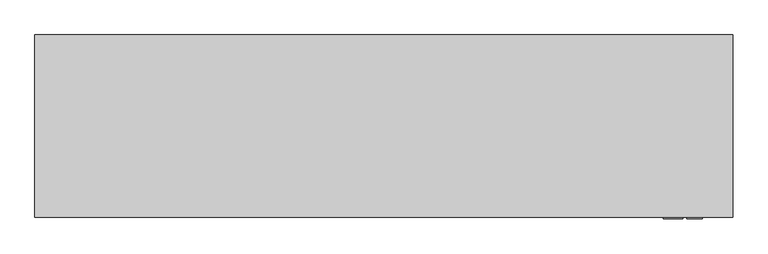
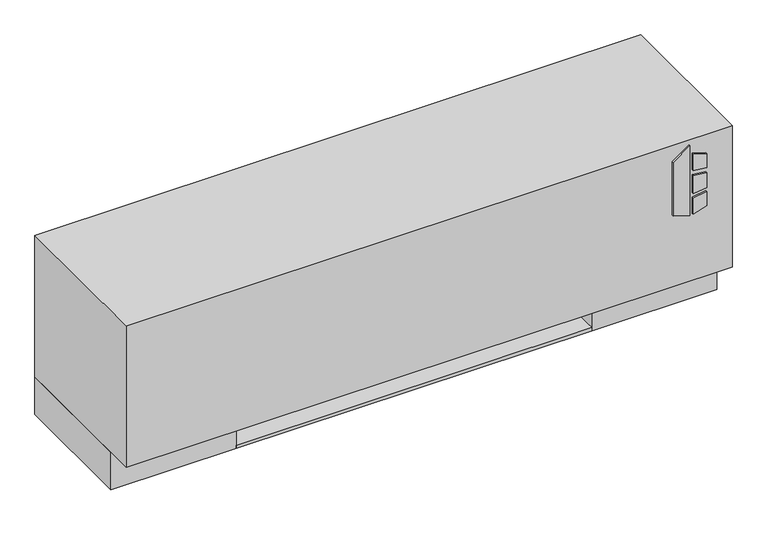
"""IFC4 building model written with IfcOpenShell, lengths in millimetres: proxy geometry, Exposed_Low_Boy_Fan_Coil_Unit Fan_-_LXA_-_IEC_-_2-Pipe_LH_2022 : Size 03 - 277v/60Hz/1Ph - 2/1 Coil."""

from ifc_helpers import new_model, si_unit, point, frame, frame_2d, origin, origin_with_axes, place, context, project, spatial, polyline, circle_curve, trimmed, segment, composite_curve, outline, extrude, faceted_brep, source, transform, mapped, element, save


def mechanical_equipment_014a290c(model_context):
    return source(origin(), model_context, "Body", "SolidModel", [
        faceted_brep([(393.7, -266.7, 114.3), (215.9, -266.7, 114.3), (215.9, -520.7, 114.3), (393.7, -520.7, 114.3), (219.075, -269.875, 114.3), (390.525, -269.875, 114.3), (390.525, -517.525, 114.3), (219.075, -517.525, 114.3), (393.7, -266.7, 88.9), (393.7, -520.7, 88.9), (215.9, -520.7, 88.9), (215.9, -266.7, 88.9), (390.525, -269.875, 92.0747888), (219.075, -269.875, 92.0747888), (219.075, -517.525, 92.0747888), (390.525, -517.525, 92.0747888)], [[[0, 1, 2, 3], [4, 5, 6, 7]], [[8, 9, 10, 11]], [[1, 0, 8, 11]], [[2, 1, 11, 10]], [[3, 2, 10, 9]], [[0, 3, 9, 8]], [[12, 13, 14, 15]], [[13, 12, 5, 4]], [[14, 13, 4, 7]], [[15, 14, 7, 6]], [[12, 15, 6, 5]]]),
        extrude(outline(composite_curve([segment(trimmed(circle_curve(frame_2d((304.8, -393.7)), 9.525), [point((295.275, -393.7))], [point((314.325, -393.7))], False, "CARTESIAN"), True, "CONTINUOUS"), segment(trimmed(circle_curve(frame_2d((304.8, -393.7)), 9.525), [point((314.325, -393.7))], [point((295.275, -393.7))], False, "CARTESIAN"), True, "CONTINUOUS")], self_intersect=False)), frame((0.0, 0.0, 63.5), z_axis=(0.0, 0.0, 1.0), x_axis=(1.0, 0.0, 0.0)), (0.0, 0.0, 1.0), 25.4),
        extrude(outline(polyline([(222.6730703, 1204.9868862), (212.725, 1237.1602728), (354.8959244, 1237.1602728), (331.8739183, 1204.9868862), (222.6730703, 1204.9868862)])), frame((0.0, -546.1, 0.0), z_axis=(0.0, 1.0, 0.0), x_axis=(0.0, 0.0, 1.0)), (0.0, 0.0, 1.0), 3.175),
        extrude(outline(polyline([(301.6723557, 1243.9186058), (298.4699632, 1270.0), (327.6988042, 1270.0), (335.7632193, 1243.9186058), (301.6723557, 1243.9186058)])), frame((0.0, -546.1, 0.0), z_axis=(0.0, 1.0, 0.0), x_axis=(0.0, 0.0, 1.0)), (0.0, 0.0, 1.0), 3.175),
        extrude(outline(polyline([(249.8088288, 1270.0), (246.1433279, 1243.9186058), (212.725, 1243.9186058), (221.3592372, 1270.0), (249.8088288, 1270.0)])), frame((0.0, -546.1, 0.0), z_axis=(0.0, 1.0, 0.0), x_axis=(0.0, 0.0, 1.0)), (0.0, 0.0, 1.0), 3.175),
        extrude(outline(polyline([(289.1239903, 1270.0), (291.4058166, 1243.9186058), (255.4682681, 1243.9186058), (258.2095331, 1270.0), (289.1239903, 1270.0)])), frame((0.0, -546.1, 0.0), z_axis=(0.0, 1.0, 0.0), x_axis=(0.0, 0.0, 1.0)), (0.0, 0.0, 1.0), 3.175),
        faceted_brep([(1320.8, -238.125, 365.125), (152.4, -238.125, 365.125), (152.4, -542.925, 365.125), (1320.8, -542.925, 365.125), (1320.8, -238.125, 76.2), (1320.8, -542.925, 76.2), (152.4, -542.925, 76.2), (152.4, -238.125, 76.2), (165.1, -238.125, 76.2), (165.1, -517.525, 76.2), (393.7, -517.525, 76.2), (393.7, -238.125, 76.2), (1079.5, -238.125, 76.2), (1079.5, -517.525, 76.2), (1308.1, -517.525, 76.2), (1308.1, -238.125, 76.2), (1308.1, -238.125, 339.725), (1079.5, -238.125, 339.725), (393.7, -238.125, 339.725), (165.1, -238.125, 339.725), (1308.1, -517.525, 339.725), (1079.5, -517.525, 339.725), (393.7, -517.525, 339.725), (165.1, -517.525, 339.725)], [[[0, 1, 2, 3]], [[4, 5, 6, 7, 8, 9, 10, 11, 12, 13, 14, 15]], [[1, 0, 4, 15, 16, 17, 12, 11, 18, 19, 8, 7]], [[2, 1, 7, 6]], [[3, 2, 6, 5]], [[0, 3, 5, 4]], [[16, 20, 21, 17]], [[18, 22, 23, 19]], [[17, 21, 13, 12]], [[21, 20, 14, 13]], [[20, 16, 15, 14]], [[19, 23, 9, 8]], [[23, 22, 10, 9]], [[22, 18, 11, 10]]]),
        extrude(outline(polyline([(1079.5, -492.125), (393.7, -492.125), (393.7, -244.475), (1079.5, -244.475), (1079.5, -492.125)])), origin_with_axes(), (0.0, 0.0, 1.0), 6.35),
        extrude(outline(polyline([(1079.5, -238.125), (1079.5, -244.475), (393.7, -244.475), (393.7, -238.125), (1079.5, -238.125)])), origin_with_axes(), (0.0, 0.0, 1.0), 76.2),
        extrude(outline(polyline([(1320.8, -238.125), (1320.8, -492.125), (1079.5, -492.125), (1079.5, -238.125), (1320.8, -238.125)]), holes=[polyline([(1092.2, -485.775), (1308.1, -485.775), (1308.1, -244.475), (1092.2, -244.475), (1092.2, -485.775)])]), origin_with_axes(), (0.0, 0.0, 1.0), 76.2),
        extrude(outline(polyline([(393.7, -238.125), (393.7, -492.125), (152.4, -492.125), (152.4, -238.125), (393.7, -238.125)]), holes=[polyline([(381.0, -244.475), (165.1, -244.475), (165.1, -485.775), (381.0, -485.775), (381.0, -244.475)])]), origin_with_axes(), (0.0, 0.0, 1.0), 76.2),
        extrude(outline(composite_curve([segment(trimmed(circle_curve(frame_2d((-485.775, 227.0125)), 7.9375), [point((-485.775, 219.075))], [point((-485.775, 234.95))], False, "CARTESIAN"), True, "CONTINUOUS"), segment(trimmed(circle_curve(frame_2d((-485.775, 227.0125)), 7.9375), [point((-485.775, 234.95))], [point((-485.775, 219.075))], False, "CARTESIAN"), True, "CONTINUOUS")], self_intersect=False)), frame((342.9, 0.0, 0.0), z_axis=(1.0, 0.0, 0.0), x_axis=(0.0, 1.0, 0.0)), (0.0, 0.0, 1.0), 50.8),
        extrude(outline(composite_curve([segment(trimmed(circle_curve(frame_2d((-269.875, 273.05)), 7.9375), [point((-269.875, 265.1125))], [point((-269.875, 280.9875))], False, "CARTESIAN"), True, "CONTINUOUS"), segment(trimmed(circle_curve(frame_2d((-269.875, 273.05)), 7.9375), [point((-269.875, 280.9875))], [point((-269.875, 265.1125))], False, "CARTESIAN"), True, "CONTINUOUS")], self_intersect=False)), frame((342.9, 0.0, 0.0), z_axis=(1.0, 0.0, 0.0), x_axis=(0.0, 1.0, 0.0)), (0.0, 0.0, 1.0), 50.8),
    ])


if __name__ == "__main__":
    model = new_model("IFC4")
    model_context = context("Model", 3, world=origin())
    ifc_project = project(units=[si_unit("LENGTHUNIT", "METRE", prefix="MILLI")], contexts=[model_context])
    site = spatial("IfcSite", under=ifc_project)
    building = spatial("IfcBuilding", under=site)
    placement = place(None, origin())
    mechanical_equipment_shape = mechanical_equipment_014a290c(model_context)
    element("IfcBuildingElementProxy", 1, Name="Exposed_Low_Boy_Fan_Coil_Unit Fan_-_LXA_-_IEC_-_2-Pipe_LH_2022 : Size 03 - 277v/60Hz/1Ph - 2/1 Coil", ObjectType="Exposed_Low_Boy_Fan_Coil_Unit Fan_-_LXA_-_IEC_-_2-Pipe_LH_2022 : Size 03 - 277v/60Hz/1Ph - 2/1 Coil", at=placement, inside=building, context=model_context, shape_type="MappedRepresentation", body=[
        mapped(mechanical_equipment_shape, transform((0.0, 0.0, 0.0), x_axis=(1.0, 0.0, 0.0), y_axis=(0.0, 1.0, 0.0), z_axis=(0.0, 0.0, 1.0))),
    ])
    save(model, "model.ifc")
